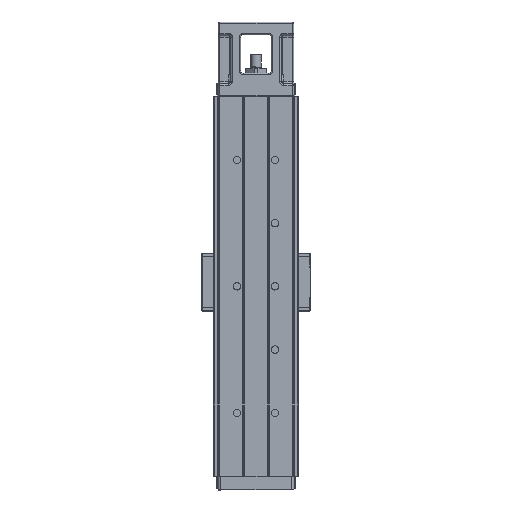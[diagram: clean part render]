
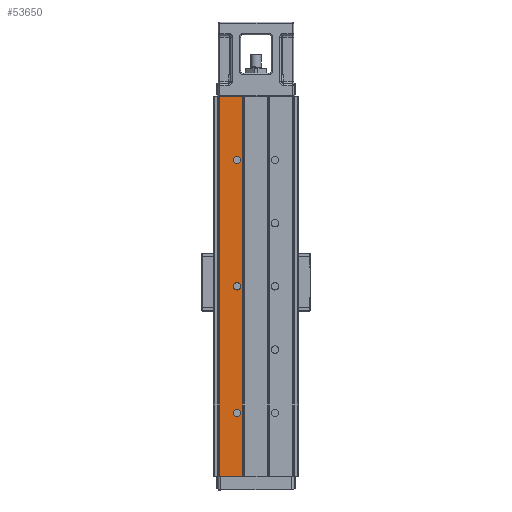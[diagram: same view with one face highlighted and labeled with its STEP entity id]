
A CAD part, front view. The second image highlights one B-rep face of the part: STEP entity #53650.
In plain terms, the highlighted planar face has unit normal (0, -1, 0).
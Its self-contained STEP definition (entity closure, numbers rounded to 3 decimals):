
#180 = EDGE_CURVE ( 'NONE', #50796, #57819, #62724, .T. ) ;
#283 = CIRCLE ( 'NONE', #37515, 2.9 ) ;
#1394 = DIRECTION ( 'NONE',  ( 0., 0., 1. ) ) ;
#2635 = CARTESIAN_POINT ( 'NONE',  ( -10.414, 0., 0. ) ) ;
#3452 = DIRECTION ( 'NONE',  ( 0., 1., 0. ) ) ;
#3554 = DIRECTION ( 'NONE',  ( 1., 0., 0. ) ) ;
#4192 = CARTESIAN_POINT ( 'NONE',  ( -29.086, 0., -300. ) ) ;
#4453 = VERTEX_POINT ( 'NONE', #57106 ) ;
#5078 = EDGE_LOOP ( 'NONE', ( #51669, #15179 ) ) ;
#6209 = CARTESIAN_POINT ( 'NONE',  ( -10.414, 0., -300. ) ) ;
#8148 = DIRECTION ( 'NONE',  ( 1., 0., 0. ) ) ;
#8198 = CARTESIAN_POINT ( 'NONE',  ( 0., 0., -300. ) ) ;
#8790 = CARTESIAN_POINT ( 'NONE',  ( -15., 0., -152.9 ) ) ;
#8909 = FACE_BOUND ( 'NONE', #26066, .T. ) ;
#9839 = ORIENTED_EDGE ( 'NONE', *, *, #21698, .T. ) ;
#10716 = VECTOR ( 'NONE', #8148, 1000. ) ;
#12252 = EDGE_CURVE ( 'NONE', #48124, #4453, #29565, .T. ) ;
#12855 = CIRCLE ( 'NONE', #34837, 2.9 ) ;
#15179 = ORIENTED_EDGE ( 'NONE', *, *, #16749, .T. ) ;
#16749 = EDGE_CURVE ( 'NONE', #61844, #53768, #61104, .T. ) ;
#17604 = LINE ( 'NONE', #18190, #54467 ) ;
#18151 = EDGE_LOOP ( 'NONE', ( #60892, #35905 ) ) ;
#18190 = CARTESIAN_POINT ( 'NONE',  ( 0., 0., 0. ) ) ;
#19436 = CARTESIAN_POINT ( 'NONE',  ( -15., 0., -252.9 ) ) ;
#20168 = VERTEX_POINT ( 'NONE', #8790 ) ;
#20805 = CARTESIAN_POINT ( 'NONE',  ( -29.086, 0., 0. ) ) ;
#21617 = DIRECTION ( 'NONE',  ( 0., 0., -1. ) ) ;
#21698 = EDGE_CURVE ( 'NONE', #20168, #28757, #283, .T. ) ;
#22273 = DIRECTION ( 'NONE',  ( 0., 0., 1. ) ) ;
#22320 = DIRECTION ( 'NONE',  ( 0., 1., 0. ) ) ;
#22393 = CARTESIAN_POINT ( 'NONE',  ( -15., 0., -50. ) ) ;
#23435 = LINE ( 'NONE', #8198, #10716 ) ;
#24970 = DIRECTION ( 'NONE',  ( 0., 1., 0. ) ) ;
#25675 = EDGE_CURVE ( 'NONE', #53768, #61844, #12855, .T. ) ;
#26066 = EDGE_LOOP ( 'NONE', ( #52130, #9839 ) ) ;
#26623 = DIRECTION ( 'NONE',  ( 0., 0., 1. ) ) ;
#26640 = DIRECTION ( 'NONE',  ( 0., 1., 0. ) ) ;
#26701 = CARTESIAN_POINT ( 'NONE',  ( -15., 0., -250. ) ) ;
#26957 = CARTESIAN_POINT ( 'NONE',  ( -15., 0., -147.1 ) ) ;
#28348 = CIRCLE ( 'NONE', #48582, 2.9 ) ;
#28757 = VERTEX_POINT ( 'NONE', #26957 ) ;
#29565 = CIRCLE ( 'NONE', #45890, 2.9 ) ;
#30258 = DIRECTION ( 'NONE',  ( 0., 0., 1. ) ) ;
#30263 = DIRECTION ( 'NONE',  ( 0., 1., 0. ) ) ;
#30325 = EDGE_LOOP ( 'NONE', ( #40938, #62084, #60581, #40675 ) ) ;
#30327 = CARTESIAN_POINT ( 'NONE',  ( -15., 0., -50. ) ) ;
#32274 = CARTESIAN_POINT ( 'NONE',  ( -15., 0., -150. ) ) ;
#32468 = CIRCLE ( 'NONE', #52384, 2.9 ) ;
#34309 = DIRECTION ( 'NONE',  ( 0., -1., 0. ) ) ;
#34837 = AXIS2_PLACEMENT_3D ( 'NONE', #22393, #22320, #22273 ) ;
#35021 = CARTESIAN_POINT ( 'NONE',  ( -30., 0., 0. ) ) ;
#35905 = ORIENTED_EDGE ( 'NONE', *, *, #12252, .T. ) ;
#36477 = DIRECTION ( 'NONE',  ( 0., 0., -1. ) ) ;
#36680 = EDGE_CURVE ( 'NONE', #57819, #59138, #23435, .T. ) ;
#37148 = DIRECTION ( 'NONE',  ( 0., 0., 1. ) ) ;
#37440 = FACE_OUTER_BOUND ( 'NONE', #30325, .T. ) ;
#37515 = AXIS2_PLACEMENT_3D ( 'NONE', #54872, #54804, #54792 ) ;
#40301 = CARTESIAN_POINT ( 'NONE',  ( -15., 0., -47.1 ) ) ;
#40675 = ORIENTED_EDGE ( 'NONE', *, *, #180, .T. ) ;
#40938 = ORIENTED_EDGE ( 'NONE', *, *, #36680, .T. ) ;
#43023 = VECTOR ( 'NONE', #1394, 1000. ) ;
#45890 = AXIS2_PLACEMENT_3D ( 'NONE', #26701, #26640, #26623 ) ;
#46077 = LINE ( 'NONE', #59264, #43023 ) ;
#47765 = AXIS2_PLACEMENT_3D ( 'NONE', #35021, #34309, #36477 ) ;
#48124 = VERTEX_POINT ( 'NONE', #19436 ) ;
#48582 = AXIS2_PLACEMENT_3D ( 'NONE', #53789, #24970, #58686 ) ;
#49762 = VECTOR ( 'NONE', #21617, 1000. ) ;
#50796 = VERTEX_POINT ( 'NONE', #20805 ) ;
#51669 = ORIENTED_EDGE ( 'NONE', *, *, #25675, .T. ) ;
#52075 = PLANE ( 'NONE',  #47765 ) ;
#52130 = ORIENTED_EDGE ( 'NONE', *, *, #58752, .T. ) ;
#52384 = AXIS2_PLACEMENT_3D ( 'NONE', #32274, #3452, #37148 ) ;
#53482 = VERTEX_POINT ( 'NONE', #2635 ) ;
#53650 = ADVANCED_FACE ( 'NONE', ( #37440, #60180, #8909, #58605 ), #52075, .T. ) ;
#53768 = VERTEX_POINT ( 'NONE', #40301 ) ;
#53789 = CARTESIAN_POINT ( 'NONE',  ( -15., 0., -250. ) ) ;
#54253 = CARTESIAN_POINT ( 'NONE',  ( -15., 0., -52.9 ) ) ;
#54460 = EDGE_CURVE ( 'NONE', #4453, #48124, #28348, .T. ) ;
#54467 = VECTOR ( 'NONE', #3554, 1000. ) ;
#54792 = DIRECTION ( 'NONE',  ( 0., 0., 1. ) ) ;
#54804 = DIRECTION ( 'NONE',  ( 0., 1., 0. ) ) ;
#54872 = CARTESIAN_POINT ( 'NONE',  ( -15., 0., -150. ) ) ;
#57106 = CARTESIAN_POINT ( 'NONE',  ( -15., 0., -247.1 ) ) ;
#57721 = EDGE_CURVE ( 'NONE', #50796, #53482, #17604, .T. ) ;
#57819 = VERTEX_POINT ( 'NONE', #4192 ) ;
#58439 = EDGE_CURVE ( 'NONE', #59138, #53482, #46077, .T. ) ;
#58605 = FACE_BOUND ( 'NONE', #5078, .T. ) ;
#58686 = DIRECTION ( 'NONE',  ( 0., 0., 1. ) ) ;
#58752 = EDGE_CURVE ( 'NONE', #28757, #20168, #32468, .T. ) ;
#59138 = VERTEX_POINT ( 'NONE', #6209 ) ;
#59264 = CARTESIAN_POINT ( 'NONE',  ( -10.414, 0., 0. ) ) ;
#59807 = CARTESIAN_POINT ( 'NONE',  ( -29.086, 0., 0. ) ) ;
#60180 = FACE_BOUND ( 'NONE', #18151, .T. ) ;
#60581 = ORIENTED_EDGE ( 'NONE', *, *, #57721, .F. ) ;
#60742 = AXIS2_PLACEMENT_3D ( 'NONE', #30327, #30263, #30258 ) ;
#60892 = ORIENTED_EDGE ( 'NONE', *, *, #54460, .T. ) ;
#61104 = CIRCLE ( 'NONE', #60742, 2.9 ) ;
#61844 = VERTEX_POINT ( 'NONE', #54253 ) ;
#62084 = ORIENTED_EDGE ( 'NONE', *, *, #58439, .T. ) ;
#62724 = LINE ( 'NONE', #59807, #49762 ) ;
